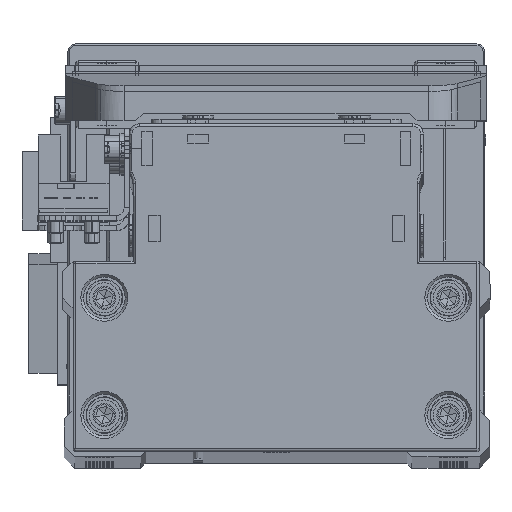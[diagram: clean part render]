
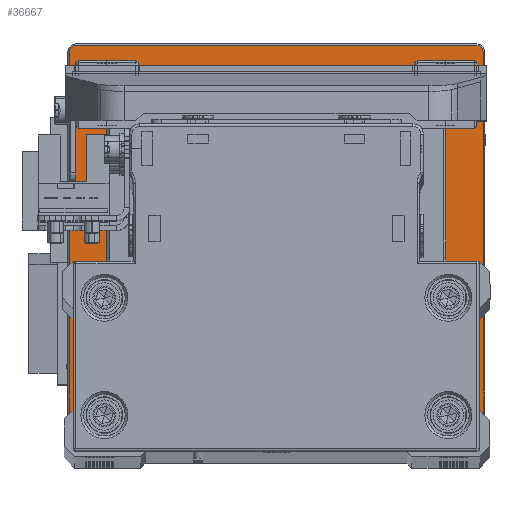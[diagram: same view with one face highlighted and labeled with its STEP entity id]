
A CAD part, top view. The second image highlights one B-rep face of the part: STEP entity #36667.
In plain terms, the highlighted planar face has unit normal (0, 0, 1) as drawn and (0, 1, 0) by its records, which use the part's own axes.
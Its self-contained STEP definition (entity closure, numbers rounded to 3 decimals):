
#36 = EDGE_CURVE ( 'NONE', #23680, #37751, #16153, .T. ) ;
#116 = AXIS2_PLACEMENT_3D ( 'NONE', #16200, #28686, #634 ) ;
#123 = VERTEX_POINT ( 'NONE', #29446 ) ;
#582 = DIRECTION ( 'NONE',  ( -1., 0., 0. ) ) ;
#634 = DIRECTION ( 'NONE',  ( 0., 0., 1. ) ) ;
#873 = DIRECTION ( 'NONE',  ( 0., 1., 0. ) ) ;
#1022 = VECTOR ( 'NONE', #17385, 1000. ) ;
#1219 = LINE ( 'NONE', #13721, #38138 ) ;
#2712 = ORIENTED_EDGE ( 'NONE', *, *, #26413, .T. ) ;
#2726 = CIRCLE ( 'NONE', #25626, 1.2 ) ;
#3462 = CIRCLE ( 'NONE', #26337, 20.5 ) ;
#3742 = EDGE_CURVE ( 'NONE', #37751, #123, #7801, .T. ) ;
#3899 = VECTOR ( 'NONE', #30063, 1000. ) ;
#4564 = VERTEX_POINT ( 'NONE', #17002 ) ;
#4899 = CARTESIAN_POINT ( 'NONE',  ( 0., 12., 39.7 ) ) ;
#4947 = CARTESIAN_POINT ( 'NONE',  ( 0., 12., 0. ) ) ;
#5107 = LINE ( 'NONE', #17591, #3899 ) ;
#5211 = DIRECTION ( 'NONE',  ( 0., 1., 0. ) ) ;
#5251 = ORIENTED_EDGE ( 'NONE', *, *, #37183, .T. ) ;
#5775 = EDGE_CURVE ( 'NONE', #4564, #39920, #17777, .T. ) ;
#6262 = AXIS2_PLACEMENT_3D ( 'NONE', #12078, #24553, #37041 ) ;
#7801 = CIRCLE ( 'NONE', #30663, 1.2 ) ;
#8024 = FACE_OUTER_BOUND ( 'NONE', #28016, .T. ) ;
#8283 = CARTESIAN_POINT ( 'NONE',  ( -38.5, 12., -38.5 ) ) ;
#9224 = CARTESIAN_POINT ( 'NONE',  ( 38.5, 12., -39.7 ) ) ;
#9737 = AXIS2_PLACEMENT_3D ( 'NONE', #4947, #17439, #29914 ) ;
#10842 = EDGE_CURVE ( 'NONE', #14216, #26939, #32942, .T. ) ;
#12078 = CARTESIAN_POINT ( 'NONE',  ( 38.5, 12., -38.5 ) ) ;
#12119 = CARTESIAN_POINT ( 'NONE',  ( 39.7, 12., 38.5 ) ) ;
#13078 = EDGE_LOOP ( 'NONE', ( #22896, #24833 ) ) ;
#13369 = DIRECTION ( 'NONE',  ( 0., 0., 1. ) ) ;
#13550 = EDGE_CURVE ( 'NONE', #39920, #4564, #3462, .T. ) ;
#13721 = CARTESIAN_POINT ( 'NONE',  ( 39.7, 12., 0. ) ) ;
#14047 = VECTOR ( 'NONE', #582, 1000. ) ;
#14060 = EDGE_CURVE ( 'NONE', #32007, #38027, #1219, .T. ) ;
#14216 = VERTEX_POINT ( 'NONE', #36411 ) ;
#14582 = CARTESIAN_POINT ( 'NONE',  ( -38.5, 12., 38.5 ) ) ;
#14663 = AXIS2_PLACEMENT_3D ( 'NONE', #14582, #27062, #39538 ) ;
#14945 = CARTESIAN_POINT ( 'NONE',  ( 38.5, 12., 39.7 ) ) ;
#15121 = EDGE_CURVE ( 'NONE', #26939, #32007, #2726, .T. ) ;
#16153 = LINE ( 'NONE', #28636, #14047 ) ;
#16200 = CARTESIAN_POINT ( 'NONE',  ( 0., 12., 0. ) ) ;
#17002 = CARTESIAN_POINT ( 'NONE',  ( 0., 12., -20.5 ) ) ;
#17103 = ORIENTED_EDGE ( 'NONE', *, *, #15121, .T. ) ;
#17385 = DIRECTION ( 'NONE',  ( 1., 0., 0. ) ) ;
#17439 = DIRECTION ( 'NONE',  ( 0., -1., 0. ) ) ;
#17591 = CARTESIAN_POINT ( 'NONE',  ( -39.7, 12., 0. ) ) ;
#17708 = DIRECTION ( 'NONE',  ( 0., 0., -1. ) ) ;
#17777 = CIRCLE ( 'NONE', #116, 20.5 ) ;
#19896 = EDGE_CURVE ( 'NONE', #38027, #23680, #23911, .T. ) ;
#20510 = FACE_BOUND ( 'NONE', #13078, .T. ) ;
#20764 = DIRECTION ( 'NONE',  ( 0., 1., 0. ) ) ;
#22896 = ORIENTED_EDGE ( 'NONE', *, *, #13550, .F. ) ;
#23321 = VERTEX_POINT ( 'NONE', #25425 ) ;
#23680 = VERTEX_POINT ( 'NONE', #9224 ) ;
#23911 = CIRCLE ( 'NONE', #6262, 1.2 ) ;
#24553 = DIRECTION ( 'NONE',  ( 0., 1., 0. ) ) ;
#24833 = ORIENTED_EDGE ( 'NONE', *, *, #5775, .F. ) ;
#25425 = CARTESIAN_POINT ( 'NONE',  ( -39.7, 12., 38.5 ) ) ;
#25626 = AXIS2_PLACEMENT_3D ( 'NONE', #33253, #5211, #17708 ) ;
#26207 = DIRECTION ( 'NONE',  ( 0., 0., -1. ) ) ;
#26337 = AXIS2_PLACEMENT_3D ( 'NONE', #28924, #873, #13369 ) ;
#26413 = EDGE_CURVE ( 'NONE', #23321, #14216, #32327, .T. ) ;
#26939 = VERTEX_POINT ( 'NONE', #14945 ) ;
#27062 = DIRECTION ( 'NONE',  ( 0., 1., 0. ) ) ;
#27281 = ORIENTED_EDGE ( 'NONE', *, *, #36, .T. ) ;
#28016 = EDGE_LOOP ( 'NONE', ( #32649, #27281, #30589, #5251, #2712, #37576, #17103, #34897 ) ) ;
#28636 = CARTESIAN_POINT ( 'NONE',  ( 0., 12., -39.7 ) ) ;
#28686 = DIRECTION ( 'NONE',  ( 0., 1., 0. ) ) ;
#28924 = CARTESIAN_POINT ( 'NONE',  ( 0., 12., 0. ) ) ;
#29446 = CARTESIAN_POINT ( 'NONE',  ( -39.7, 12., -38.5 ) ) ;
#29914 = DIRECTION ( 'NONE',  ( 0., 0., -1. ) ) ;
#30063 = DIRECTION ( 'NONE',  ( 0., 0., 1. ) ) ;
#30589 = ORIENTED_EDGE ( 'NONE', *, *, #3742, .T. ) ;
#30663 = AXIS2_PLACEMENT_3D ( 'NONE', #8283, #20764, #33248 ) ;
#32007 = VERTEX_POINT ( 'NONE', #12119 ) ;
#32327 = CIRCLE ( 'NONE', #14663, 1.2 ) ;
#32649 = ORIENTED_EDGE ( 'NONE', *, *, #19896, .T. ) ;
#32850 = CARTESIAN_POINT ( 'NONE',  ( 39.7, 12., -38.5 ) ) ;
#32942 = LINE ( 'NONE', #4899, #1022 ) ;
#32994 = PLANE ( 'NONE',  #9737 ) ;
#33248 = DIRECTION ( 'NONE',  ( 0., 0., -1. ) ) ;
#33253 = CARTESIAN_POINT ( 'NONE',  ( 38.5, 12., 38.5 ) ) ;
#34097 = CARTESIAN_POINT ( 'NONE',  ( -38.5, 12., -39.7 ) ) ;
#34897 = ORIENTED_EDGE ( 'NONE', *, *, #14060, .T. ) ;
#36411 = CARTESIAN_POINT ( 'NONE',  ( -38.5, 12., 39.7 ) ) ;
#36667 = ADVANCED_FACE ( 'NONE', ( #8024, #20510 ), #32994, .F. ) ;
#37041 = DIRECTION ( 'NONE',  ( 0., 0., -1. ) ) ;
#37183 = EDGE_CURVE ( 'NONE', #123, #23321, #5107, .T. ) ;
#37576 = ORIENTED_EDGE ( 'NONE', *, *, #10842, .T. ) ;
#37751 = VERTEX_POINT ( 'NONE', #34097 ) ;
#38027 = VERTEX_POINT ( 'NONE', #32850 ) ;
#38138 = VECTOR ( 'NONE', #26207, 1000. ) ;
#39538 = DIRECTION ( 'NONE',  ( 0., 0., -1. ) ) ;
#39725 = CARTESIAN_POINT ( 'NONE',  ( 0., 12., 20.5 ) ) ;
#39920 = VERTEX_POINT ( 'NONE', #39725 ) ;
